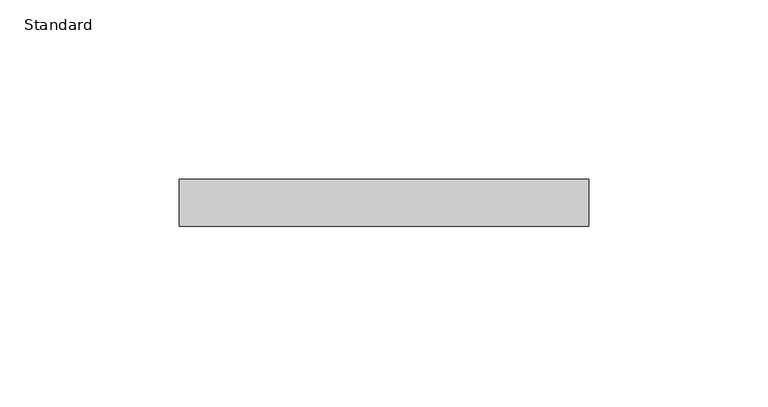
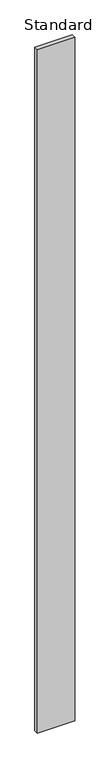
"""IFC4 building model written with IfcOpenShell, lengths in millimetres: furniture geometry, X_Partition-Compact Laminate-Duracube-Rectangular : Standard."""

from ifc_helpers import new_model, si_unit, frame, origin, place, context, project, spatial, polyline, outline, extrude, source, transform, mapped, element, save


def standard_0ccb0c43(model_context):
    return source(origin(), model_context, "Body", "SweptSolid", [
        extrude(outline(polyline([(101.7003264, 0.0), (101.7003264, -13.0), (-12.2996736, -13.0), (-12.2996736, 0.0), (101.7003264, 0.0)])), frame((0.0, 0.0, 200.0), z_axis=(0.0, 0.0, 1.0), x_axis=(1.0, 0.0, 0.0)), (0.0, 0.0, 1.0), 2198.0),
    ])


if __name__ == "__main__":
    model = new_model("IFC4")
    model_context = context("Model", 3, world=origin())
    ifc_project = project(units=[si_unit("LENGTHUNIT", "METRE", prefix="MILLI")], contexts=[model_context])
    site = spatial("IfcSite", under=ifc_project)
    building = spatial("IfcBuilding", under=site)
    placement = place(None, origin())
    standard_shape = standard_0ccb0c43(model_context)
    element("IfcFurniture", 1, ObjectType="X_Partition-Compact Laminate-Duracube-Rectangular : Standard", at=placement, inside=building, context=model_context, shape_type="MappedRepresentation", body=[
        mapped(standard_shape, transform((0.0, 0.0, 0.0), x_axis=(1.0, 0.0, 0.0), y_axis=(0.0, 1.0, 0.0), z_axis=(0.0, 0.0, 1.0))),
    ])
    save(model, "model.ifc")
